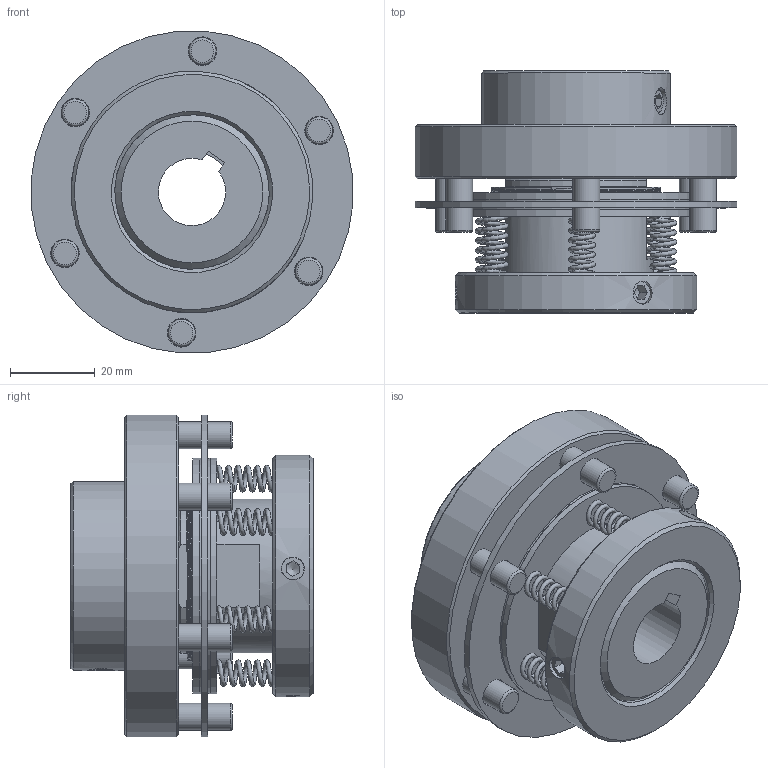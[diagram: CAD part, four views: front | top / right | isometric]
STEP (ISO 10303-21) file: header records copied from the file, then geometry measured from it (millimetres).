
FILE_DESCRIPTION((''),'2;1');
FILE_NAME('P:\Public\Organized 3D Clutch Assembly Files - Jessica\Slippers\Single Plate\Size 48\PFS48-10.stp','2013-01-31T09:33:57',('TodLob'),(''),'Autodesk Inventor 2011','Autodesk Inventor 2011','');
FILE_SCHEMA(('AUTOMOTIVE_DESIGN { 1 0 10303 214 1 1 1 1 }'));
Length unit declared in the file: inch
Products named in the file (11): PFS48-10; P4812-10; S4817-9F; S4815; S4821; S4813; S4414F; S4822; S4809-12-S; Pin - Hardened Ground Machine Dowel (Inch) 1/4 x 1; Type A - Hexagon Socket Set Screw - Cup Point - Inch 1/4-28 UNF x 0.38
Assembly tree (25 placements, depth 2):
  PFS48-10
    P4812-10
    S4817-9F
    S4815  x2
    S4821  x2
    S4813
    S4414F  x6
    S4822
    S4809-12-S
    Pin - Hardened Ground Machine Dowel (Inch) 1/4 x 1  x6
    Type A - Hexagon Socket Set Screw - Cup Point - Inch 1/4-28 UNF x 0.38  x4
Bounding box: 75.99 x 57.15 x 75.99 mm (x, y, z)
Volume: 121660.8 mm3; surface area: 58170.1 mm2
Topology: 25 solids, 25 shells, 941 faces, 2238 edges, 1465 vertices
Faces by surface type: plane 714, bspline 106, cylinder 79, cone 26, torus 16
Full cylindrical faces by diameter (mm): 5.41 x2, 6.35 x18, 6.528 x9, 6.731 x6, 36.5 x2, 36.576 x2, 38.1 x1, 40.005 x1, 44.704 x1, 55.55 x4, 57.074 x1, 76.2 x2
Entity records: 50193 total; most frequent: CARTESIAN_POINT 30585, ORIENTED_EDGE 3994, DIRECTION 3615, EDGE_CURVE 1997, VERTEX_POINT 1356, VECTOR 1325, LINE 1325, AXIS2_PLACEMENT_3D 1145
